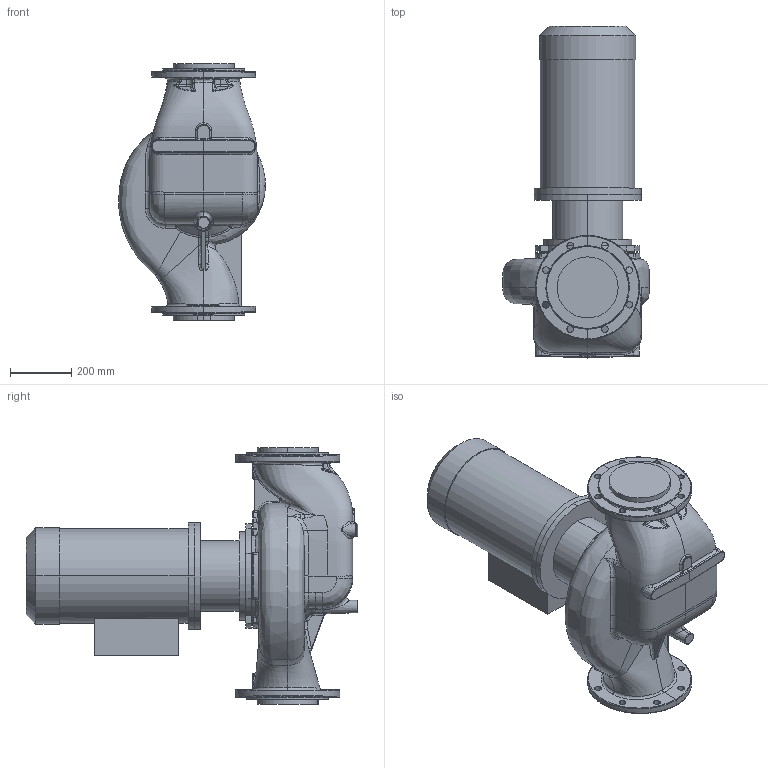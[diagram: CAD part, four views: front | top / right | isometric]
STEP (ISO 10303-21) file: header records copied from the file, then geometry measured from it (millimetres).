
FILE_DESCRIPTION (( 'STEP AP214' ), '1' );
FILE_NAME ('KRL 200-250-4-15.STEP', '2026-04-03T13:19:51', ( '' ), ( '' ), 'SwSTEP 2.0', 'SolidWorks 2016', '' );
FILE_SCHEMA (( 'AUTOMOTIVE_DESIGN' ));
Length unit declared in the file: millimetre
Products named in the file (1): KRL 200-250-4-15
Bounding box: 479.61 x 1085.8 x 840 mm (x, y, z)
Volume: 122536623.1 mm3; surface area: 2793478.7 mm2
Topology: 9 solids, 9 shells, 613 faces, 1510 edges, 915 vertices
Faces by surface type: bspline 287, cylinder 130, plane 126, cone 40, torus 24, sphere 6
Entity records: 66511 total; most frequent: CARTESIAN_POINT 47857, ORIENTED_EDGE 2974, DIRECTION 1744, EDGE_CURVE 1487, VERTEX_POINT 915, AXIS2_PLACEMENT_3D 735, EDGE_LOOP 668, B_SPLINE_CURVE_WITH_KNOTS 657
